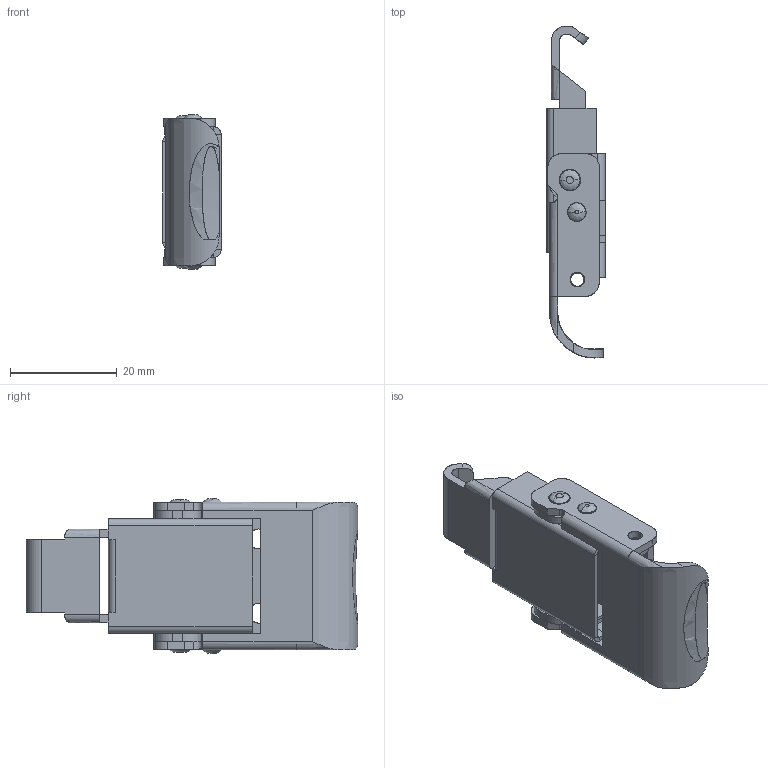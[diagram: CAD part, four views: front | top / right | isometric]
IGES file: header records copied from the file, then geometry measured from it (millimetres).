
Start section: SolidWorks IGES FILE using analytic representation for surfaces
Global section: file name: C:\Documents and Settings\lecoutey\Bureau\GP 16\GP 16.IGS; native system: SolidWorks 2004 by SolidWorks Corporation; preprocessor: Version 5.3; author: lecoutey; date: 050329.133705; units: millimetre
Bounding box: 10.9 x 62.03 x 29 mm (x, y, z)
Surface area: 10412.2 mm2 (no closed solid volume)
Topology: 0 solids, 0 shells, 291 faces, 3785 edges, 3784 vertices
Faces by surface type: bspline 193, revolution 98
